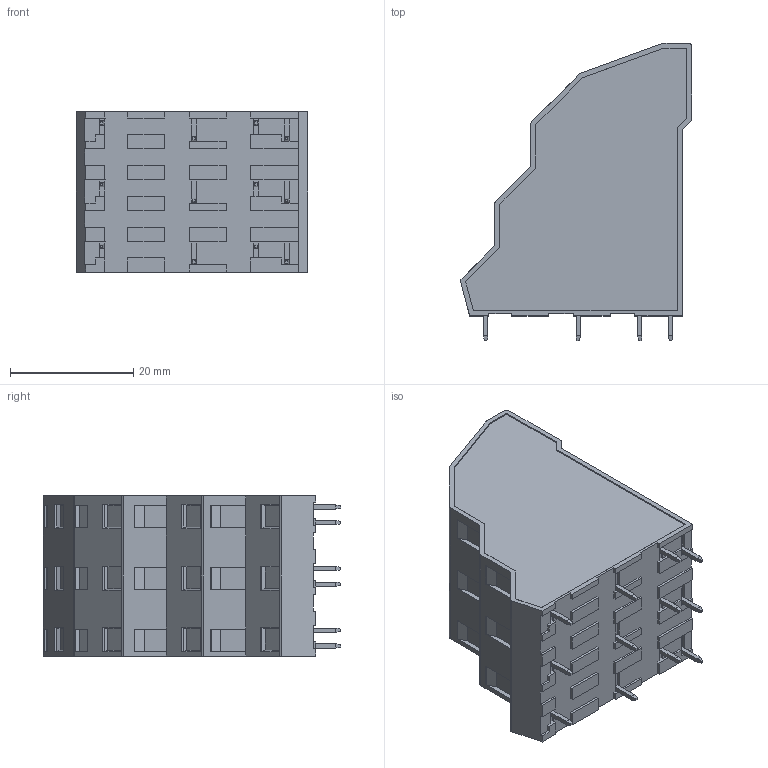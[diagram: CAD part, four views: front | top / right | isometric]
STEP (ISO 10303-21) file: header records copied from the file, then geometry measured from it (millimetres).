
FILE_DESCRIPTION((''),'2;1');
FILE_NAME('HS0320800000G_SW0001','2019-06-05T',('zhenbing.lai'),(''),'CREO PARAMETRIC BY PTC INC, 2016260','CREO PARAMETRIC BY PTC INC, 2016260','');
FILE_SCHEMA(('CONFIG_CONTROL_DESIGN'));
Length unit declared in the file: millimetre
Products named in the file (1): HS0320800000G_SW0001
Bounding box: 37.5 x 48.2 x 26 mm (x, y, z)
Volume: 29536.9 mm3; surface area: 6790.7 mm2
Topology: 1 solids, 10 shells, 550 faces, 1437 edges, 941 vertices
Faces by surface type: plane 515, cylinder 32, cone 3
Entity records: 16579 total; most frequent: CARTESIAN_POINT 2988, ORIENTED_EDGE 2874, DIRECTION 2600, EDGE_CURVE 1437, VECTOR 1340, LINE 1340, VERTEX_POINT 941, AXIS2_PLACEMENT_3D 630
